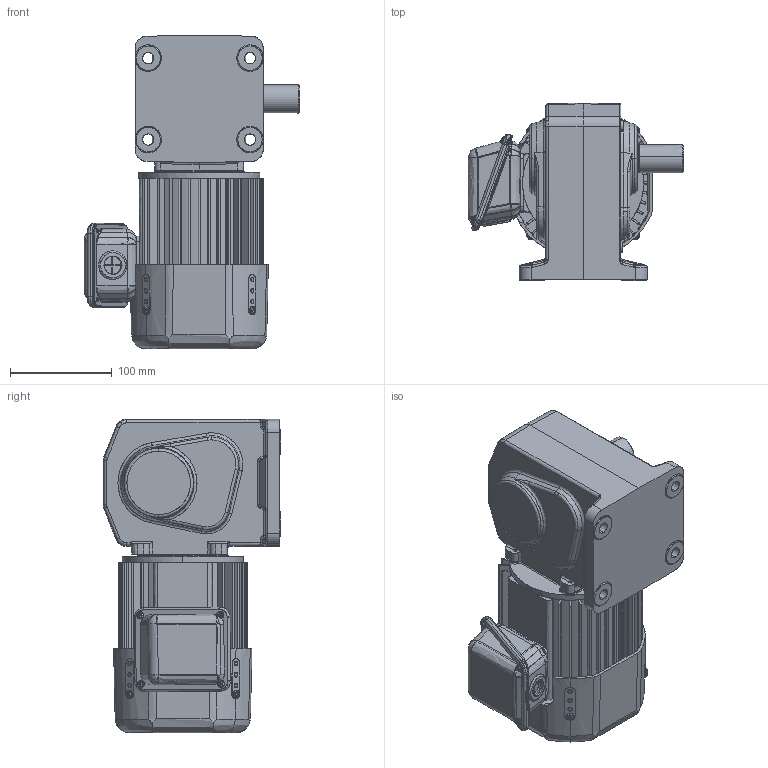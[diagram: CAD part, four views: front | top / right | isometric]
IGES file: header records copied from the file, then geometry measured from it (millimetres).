
Start section: SolidWorks IGES file using analytic representation for surfaces
Global section: file name: \\100.100.100.8\1_共有作業フォルダ\1-5_３Ｄデータ\solidworks\personal-folder\H.Nagayama\HL外形\HL(3D)\igs\TMHLB-02-(80~240)B.IGS; native system: SolidWorks 2018; preprocessor: SolidWorks 2018; author: sigma-giken; date: 200324.171825; units: millimetre
Bounding box: 212 x 174.5 x 308.1 mm (x, y, z)
Surface area: 480250 mm2 (no closed solid volume)
Topology: 0 solids, 0 shells, 1887 faces, 24373 edges, 24304 vertices
Faces by surface type: bspline 951, revolution 936
